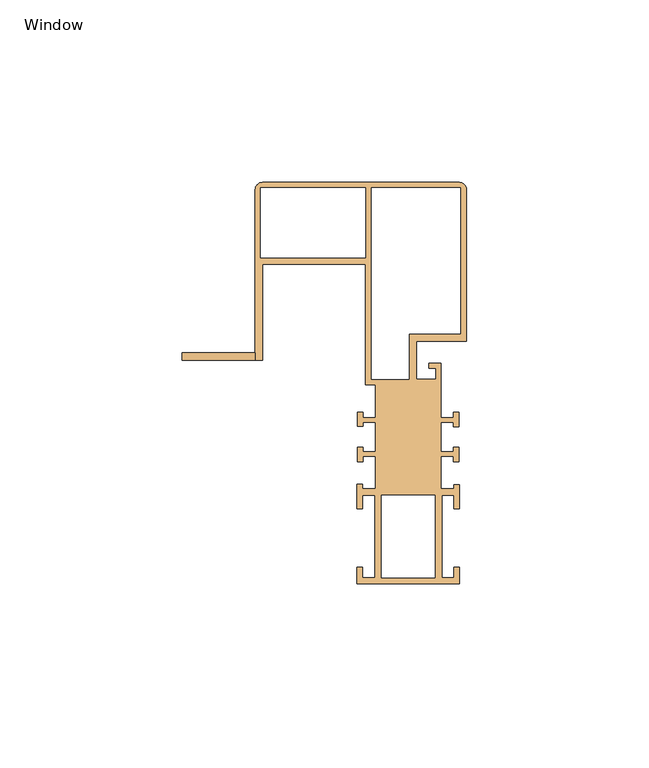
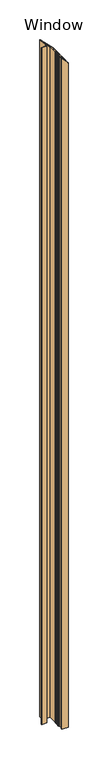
"""IFC4 building model written with IfcOpenShell, lengths in millimetres: door geometry, QO-H-QB_Door Module : Window."""

from ifc_helpers import new_model, si_unit, frame, origin, place, context, project, spatial, circle_curve, ellipse_curve, source, transform, mapped, element, save
from ifc_brep_helpers import plane_surface, cylinder_surface, advanced_brep


def window_996190e2(model_context):
    return source(origin(), model_context, "Body", "AdvancedBrep", [
        advanced_brep(
        [(-654.4523452, -75.0037405, -4.0), (-657.9523458, -75.0037405, -4.0), (-657.9523458, -76.5037405, -4.0), (-659.4523458, -76.5037405, -4.0), (-659.4523458, -72.6037405, -4.0), (-657.9523458, -72.6037405, -4.0), (-657.9523458, -73.8037405, -4.0), (-654.4523458, -73.8037405, -4.0), (-654.4523458, -65.7037405, -4.0), (-657.9523458, -65.7037405, -4.0), (-657.9523458, -66.9037405, -4.0), (-659.4523458, -66.9037405, -4.0), (-659.4523458, -63.0037405, -4.0), (-657.9523458, -63.0037405, -4.0), (-657.9523458, -64.5037405, -4.0), (-654.4523459, -64.5037405, -4.0), (-654.4523459, -55.4999986, -4.0), (-657.3, -55.4999986, -4.0), (-657.3, -22.4, -4.0), (-685.4990835, -22.4, -4.0), (-685.4990835, -48.7, -4.0), (-707.4990835, -48.7, -4.0), (-707.4990835, -46.7, -4.0), (-687.5, -46.7, -4.0), (-687.5, -2.0, -4.0), (-685.5, 0.0, -4.0), (-631.5, 0.0, -4.0), (-629.5, -2.0, -4.0), (-629.5, -43.5, -4.0), (-643.3, -43.5, -4.0), (-643.3, -54.0, -4.0), (-637.9, -54.0, -4.0), (-637.9, -51.0, -4.0), (-639.8, -51.0, -4.0), (-639.8, -49.6, -4.0), (-636.5, -49.6, -4.0), (-636.5, -64.5037405, -4.0), (-633.0513133, -64.5037405, -4.0), (-633.0513133, -63.0037405, -4.0), (-631.5513133, -63.0037405, -4.0), (-631.5513133, -66.9037405, -4.0), (-633.0513133, -66.9037405, -4.0), (-633.0513133, -65.7037405, -4.0), (-636.5513133, -65.7037405, -4.0), (-636.5513133, -73.8037405, -4.0), (-633.0513133, -73.8037405, -4.0), (-633.0513133, -72.6037405, -4.0), (-631.5513133, -72.6037405, -4.0), (-631.5513133, -76.5037405, -4.0), (-633.0513133, -76.5037405, -4.0), (-633.0513133, -75.0037405, -4.0), (-636.5513139, -75.0037405, -4.0), (-636.5513139, -84.0037561, -4.0), (-633.0018295, -84.0037561, -4.0), (-633.0018295, -82.8037561, -4.0), (-631.5018295, -82.8037561, -4.0), (-631.5018295, -89.5037561, -4.0), (-633.0018295, -89.5037561, -4.0), (-633.0018295, -85.7037561, -4.0), (-636.3018295, -85.7037561, -4.0), (-636.3018295, -108.3037561, -4.0), (-633.0018295, -108.3037561, -4.0), (-633.0018295, -105.5037561, -4.0), (-631.5018295, -105.5037561, -4.0), (-631.5018295, -110.0037561, -4.0), (-659.5018295, -110.0037561, -4.0), (-659.5018295, -105.5037561, -4.0), (-658.0018295, -105.5037561, -4.0), (-658.0018295, -108.3037561, -4.0), (-654.7018295, -108.3037561, -4.0), (-654.7018295, -85.7037561, -4.0), (-658.0018295, -85.7037561, -4.0), (-658.0018295, -89.5037561, -4.0), (-659.5018295, -89.5037561, -4.0), (-659.5018295, -82.8037561, -4.0), (-658.0018295, -82.8037561, -4.0), (-658.0018295, -84.0037561, -4.0), (-654.4523452, -84.0037561, -4.0), (-657.3, -1.5, -4.0), (-686.0, -1.5, -4.0), (-686.0, -20.7, -4.0), (-657.3, -20.7, -4.0), (-645.3, -41.5, -4.0), (-631.2, -41.5, -4.0), (-631.2, -1.5, -4.0), (-655.6, -1.5, -4.0), (-655.6, -54.0, -4.0), (-645.3, -54.0, -4.0), (-638.2018295, -108.3037561, -4.0), (-638.2018295, -85.7037561, -4.0), (-652.8018295, -85.7037561, -4.0), (-652.8018295, -108.3037561, -4.0), (-654.4523452, -75.0037405, 2939.9523452), (-657.9523458, -75.0037405, 2943.4523458), (-657.9523458, -76.5037405, 2943.4523458), (-659.4523458, -76.5037405, 2944.9523458), (-659.4523458, -72.6037405, 2944.9523458), (-657.9523458, -72.6037405, 2943.4523458), (-657.9523458, -73.8037405, 2943.4523458), (-654.4523458, -73.8037405, 2939.9523458), (-654.4523458, -65.7037405, 2939.9523458), (-657.9523458, -65.7037405, 2943.4523458), (-657.9523458, -66.9037405, 2943.4523458), (-659.4523458, -66.9037405, 2944.9523458), (-659.4523458, -63.0037405, 2944.9523458), (-657.9523458, -63.0037405, 2943.4523458), (-657.9523458, -64.5037405, 2943.4523458), (-654.4523459, -64.5037405, 2939.9523459), (-654.4523459, -55.4999986, 2939.9523459), (-657.3, -55.4999986, 2942.8), (-657.3, -22.4, 2942.8), (-685.4990835, -22.4, 2970.9990835), (-685.4990835, -48.7, 2970.9990835), (-687.5, -48.7, 2973.0), (-707.4990835, -48.7, 2973.0), (-707.4990835, -46.7, 2973.0), (-687.5, -46.7, 2973.0), (-687.5, -2.0, 2973.0), (-685.5, 0.0, 2971.0), (-631.5, 0.0, 2917.0), (-629.5, -2.0, 2915.0), (-629.5, -43.5, 2915.0), (-643.3, -43.5, 2928.8), (-643.3, -54.0, 2928.8), (-637.9, -54.0, 2923.4), (-637.9, -51.0, 2923.4), (-639.8, -51.0, 2925.3), (-639.8, -49.6, 2925.3), (-636.5, -49.6, 2922.0), (-636.5, -64.5037405, 2922.0), (-633.0513133, -64.5037405, 2918.5513133), (-633.0513133, -63.0037405, 2918.5513133), (-631.5513133, -63.0037405, 2917.0513133), (-631.5513133, -66.9037405, 2917.0513133), (-633.0513133, -66.9037405, 2918.5513133), (-633.0513133, -65.7037405, 2918.5513133), (-636.5513133, -65.7037405, 2922.0513133), (-636.5513133, -73.8037405, 2922.0513133), (-633.0513133, -73.8037405, 2918.5513133), (-633.0513133, -72.6037405, 2918.5513133), (-631.5513133, -72.6037405, 2917.0513133), (-631.5513133, -76.5037405, 2917.0513133), (-633.0513133, -76.5037405, 2918.5513133), (-633.0513133, -75.0037405, 2918.5513133), (-636.5513139, -75.0037405, 2922.0513139), (-636.5513139, -84.0037561, 2922.0513139), (-633.0018295, -84.0037561, 2918.5018295), (-633.0018295, -82.8037561, 2918.5018295), (-631.5018295, -82.8037561, 2917.0018295), (-631.5018295, -89.5037561, 2917.0018295), (-633.0018295, -89.5037561, 2918.5018295), (-633.0018295, -85.7037561, 2918.5018295), (-636.3018295, -85.7037561, 2921.8018295), (-636.3018295, -108.3037561, 2921.8018295), (-633.0018295, -108.3037561, 2918.5018295), (-633.0018295, -105.5037561, 2918.5018295), (-631.5018295, -105.5037561, 2917.0018295), (-631.5018295, -110.0037561, 2917.0018295), (-659.5018295, -110.0037561, 2945.0018295), (-659.5018295, -105.5037561, 2945.0018295), (-658.0018295, -105.5037561, 2943.5018295), (-658.0018295, -108.3037561, 2943.5018295), (-654.7018295, -108.3037561, 2940.2018295), (-654.7018295, -85.7037561, 2940.2018295), (-658.0018295, -85.7037561, 2943.5018295), (-658.0018295, -89.5037561, 2943.5018295), (-659.5018295, -89.5037561, 2945.0018295), (-659.5018295, -82.8037561, 2945.0018295), (-658.0018295, -82.8037561, 2943.5018295), (-658.0018295, -84.0037561, 2943.5018295), (-654.4523452, -84.0037561, 2939.9523452), (-657.3, -1.5, 2942.8), (-686.0, -1.5, 2971.5), (-686.0, -20.7, 2971.5), (-657.3, -20.7, 2942.8), (-645.3, -41.5, 2930.8), (-631.2, -41.5, 2916.7), (-631.2, -1.5, 2916.7), (-655.6, -1.5, 2941.1), (-655.6, -54.0, 2941.1), (-645.3, -54.0, 2930.8), (-638.2018295, -108.3037561, 2923.7018295), (-638.2018295, -85.7037561, 2923.7018295), (-652.8018295, -85.7037561, 2938.3018295), (-652.8018295, -108.3037561, 2938.3018295)],
        [
            (0, 1),
            (1, 2),
            (2, 3),
            (3, 4),
            (4, 5),
            (5, 6),
            (6, 7),
            (7, 8),
            (8, 9),
            (9, 10),
            (10, 11),
            (11, 12),
            (12, 13),
            (13, 14),
            (14, 15),
            (15, 16),
            (16, 17),
            (17, 18),
            (18, 19),
            (19, 20),
            (20, 21),
            (21, 22),
            (22, 23),
            (23, 24),
            (24, 25, circle_curve(frame((-685.5, -2.0, -4.0), z_axis=(0.0, 0.0, -1.0), x_axis=(0.0, -1.0, 0.0)), 2.0)),
            (25, 26),
            (26, 27, circle_curve(frame((-631.5, -2.0, -4.0), z_axis=(0.0, 0.0, -1.0), x_axis=(0.0, -1.0, 0.0)), 2.0)),
            (27, 28),
            (28, 29),
            (29, 30),
            (30, 31),
            (31, 32),
            (32, 33),
            (33, 34),
            (34, 35),
            (35, 36),
            (36, 37),
            (37, 38),
            (38, 39),
            (39, 40),
            (40, 41),
            (41, 42),
            (42, 43),
            (43, 44),
            (44, 45),
            (45, 46),
            (46, 47),
            (47, 48),
            (48, 49),
            (49, 50),
            (50, 51),
            (51, 52),
            (52, 53),
            (53, 54),
            (54, 55),
            (55, 56),
            (56, 57),
            (57, 58),
            (58, 59),
            (59, 60),
            (60, 61),
            (61, 62),
            (62, 63),
            (63, 64),
            (64, 65),
            (65, 66),
            (66, 67),
            (67, 68),
            (68, 69),
            (69, 70),
            (70, 71),
            (71, 72),
            (72, 73),
            (73, 74),
            (74, 75),
            (75, 76),
            (76, 77),
            (77, 0),
            (78, 79),
            (79, 80),
            (80, 81),
            (81, 78),
            (82, 83),
            (83, 84),
            (84, 85),
            (85, 86),
            (86, 87),
            (87, 82),
            (88, 89),
            (89, 90),
            (90, 91),
            (91, 88),
            (0, 92),
            (92, 93),
            (93, 1),
            (93, 94),
            (94, 2),
            (94, 95),
            (95, 3),
            (95, 96),
            (96, 4),
            (96, 97),
            (97, 5),
            (97, 98),
            (98, 6),
            (98, 99),
            (99, 7),
            (99, 100),
            (100, 8),
            (100, 101),
            (101, 9),
            (101, 102),
            (102, 10),
            (102, 103),
            (103, 11),
            (103, 104),
            (104, 12),
            (104, 105),
            (105, 13),
            (105, 106),
            (106, 14),
            (106, 107),
            (107, 15),
            (107, 108),
            (108, 16),
            (108, 109),
            (109, 17),
            (109, 110),
            (110, 18),
            (110, 111),
            (111, 19),
            (111, 112),
            (112, 20),
            (112, 113),
            (113, 114),
            (114, 21),
            (114, 115),
            (115, 22),
            (115, 116),
            (116, 23),
            (116, 117),
            (117, 24),
            (117, 118, ellipse_curve(frame((-685.5, -2.0, 2971.0), z_axis=(-0.7071067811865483, 0.0, -0.7071067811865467), x_axis=(-0.7071067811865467, 0.0, 0.7071067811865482)), 2.8284271, 2.0)),
            (118, 25),
            (118, 119),
            (119, 26),
            (119, 120, ellipse_curve(frame((-631.5, -2.0, 2917.0), z_axis=(-0.7071067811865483, 0.0, -0.7071067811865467), x_axis=(-0.7071067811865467, 0.0, 0.7071067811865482)), 2.8284271, 2.0)),
            (120, 27),
            (120, 121),
            (121, 28),
            (121, 122),
            (122, 29),
            (122, 123),
            (123, 30),
            (123, 124),
            (124, 31),
            (124, 125),
            (125, 32),
            (125, 126),
            (126, 33),
            (126, 127),
            (127, 34),
            (127, 128),
            (128, 35),
            (128, 129),
            (129, 36),
            (129, 130),
            (130, 37),
            (130, 131),
            (131, 38),
            (131, 132),
            (132, 39),
            (132, 133),
            (133, 40),
            (133, 134),
            (134, 41),
            (134, 135),
            (135, 42),
            (135, 136),
            (136, 43),
            (136, 137),
            (137, 44),
            (137, 138),
            (138, 45),
            (138, 139),
            (139, 46),
            (139, 140),
            (140, 47),
            (140, 141),
            (141, 48),
            (141, 142),
            (142, 49),
            (142, 143),
            (143, 50),
            (143, 144),
            (144, 51),
            (144, 145),
            (145, 52),
            (145, 146),
            (146, 53),
            (146, 147),
            (147, 54),
            (147, 148),
            (148, 55),
            (148, 149),
            (149, 56),
            (149, 150),
            (150, 57),
            (150, 151),
            (151, 58),
            (151, 152),
            (152, 59),
            (152, 153),
            (153, 60),
            (153, 154),
            (154, 61),
            (154, 155),
            (155, 62),
            (155, 156),
            (156, 63),
            (156, 157),
            (157, 64),
            (157, 158),
            (158, 65),
            (158, 159),
            (159, 66),
            (159, 160),
            (160, 67),
            (160, 161),
            (161, 68),
            (161, 162),
            (162, 69),
            (162, 163),
            (163, 70),
            (163, 164),
            (164, 71),
            (164, 165),
            (165, 72),
            (165, 166),
            (166, 73),
            (166, 167),
            (167, 74),
            (167, 168),
            (168, 75),
            (168, 169),
            (169, 76),
            (169, 170),
            (170, 77),
            (170, 92),
            (78, 171),
            (171, 172),
            (172, 79),
            (172, 173),
            (173, 80),
            (173, 174),
            (174, 81),
            (174, 171),
            (82, 175),
            (175, 176),
            (176, 83),
            (176, 177),
            (177, 84),
            (177, 178),
            (178, 85),
            (178, 179),
            (179, 86),
            (179, 180),
            (180, 87),
            (180, 175),
            (88, 181),
            (181, 182),
            (182, 89),
            (182, 183),
            (183, 90),
            (183, 184),
            (184, 91),
            (184, 181),
            (113, 116),
        ],
        [
            plane_surface(frame((-700.0, 0.0, -4.0), z_axis=(0.0, 0.0, -1.0), x_axis=(0.0, -1.0, 0.0))),
            plane_surface(frame((-657.9523458, -75.0037405, 2973.0), z_axis=(0.0, -1.0, 0.0), x_axis=(0.0, 0.0, -1.0))),
            plane_surface(frame((-657.9523458, -76.5037405, 2973.0), z_axis=(1.0, 0.0, 0.0), x_axis=(0.0, 0.0, -1.0))),
            plane_surface(frame((-659.4523458, -76.5037405, 2973.0), z_axis=(0.0, -1.0, 0.0), x_axis=(0.0, 0.0, -1.0))),
            plane_surface(frame((-659.4523458, -72.6037405, 2973.0), z_axis=(-1.0, 0.0, 0.0), x_axis=(0.0, 0.0, -1.0))),
            plane_surface(frame((-657.9523458, -72.6037405, 2973.0), z_axis=(0.0, 1.0, 0.0), x_axis=(0.0, 0.0, -1.0))),
            plane_surface(frame((-657.9523458, -73.8037405, 2973.0), z_axis=(1.0, 0.0, 0.0), x_axis=(0.0, 0.0, -1.0))),
            plane_surface(frame((-654.4523458, -73.8037405, 2973.0), z_axis=(0.0, 1.0, 0.0), x_axis=(0.0, 0.0, -1.0))),
            plane_surface(frame((-654.4523458, -65.7037405, 2973.0), z_axis=(-1.0, 0.0, 0.0), x_axis=(0.0, 0.0, -1.0))),
            plane_surface(frame((-657.9523458, -65.7037405, 2973.0), z_axis=(0.0, -1.0, 0.0), x_axis=(0.0, 0.0, -1.0))),
            plane_surface(frame((-657.9523458, -66.9037405, 2973.0), z_axis=(1.0, 0.0, 0.0), x_axis=(0.0, 0.0, -1.0))),
            plane_surface(frame((-659.4523458, -66.9037405, 2973.0), z_axis=(0.0, -1.0, 0.0), x_axis=(0.0, 0.0, -1.0))),
            plane_surface(frame((-659.4523458, -63.0037405, 2973.0), z_axis=(-1.0, 0.0, 0.0), x_axis=(0.0, 0.0, -1.0))),
            plane_surface(frame((-657.9523458, -63.0037405, 2973.0), z_axis=(0.0, 1.0, 0.0), x_axis=(0.0, 0.0, -1.0))),
            plane_surface(frame((-657.9523458, -64.5037405, 2973.0), z_axis=(1.0, 0.0, 0.0), x_axis=(0.0, 0.0, -1.0))),
            plane_surface(frame((-654.4523459, -64.5037405, 2973.0), z_axis=(0.0, 1.0, 0.0), x_axis=(0.0, 0.0, -1.0))),
            plane_surface(frame((-654.4523459, -55.4999986, 2973.0), z_axis=(-1.0, 0.0, 0.0), x_axis=(0.0, 0.0, -1.0))),
            plane_surface(frame((-657.3, -55.4999986, 2973.0), z_axis=(0.0, -1.0, 0.0), x_axis=(0.0, 0.0, -1.0))),
            plane_surface(frame((-657.3, -22.4, 2973.0), z_axis=(-1.0, 0.0, 0.0), x_axis=(0.0, 0.0, -1.0))),
            plane_surface(frame((-685.4990835, -22.4, 2973.0), z_axis=(0.0, -1.0, 0.0), x_axis=(0.0, 0.0, -1.0))),
            plane_surface(frame((-685.4990835, -48.7, 2973.0), z_axis=(1.0, 0.0, 0.0), x_axis=(0.0, 0.0, -1.0))),
            plane_surface(frame((-707.4990835, -48.7, 2973.0), z_axis=(0.0, -1.0, 0.0), x_axis=(0.0, 0.0, -1.0))),
            plane_surface(frame((-707.4990835, -46.7, 2973.0), z_axis=(-1.0, 0.0, 0.0), x_axis=(0.0, 0.0, -1.0))),
            plane_surface(frame((-687.5, -46.7, 2973.0), z_axis=(0.0, 1.0, 0.0), x_axis=(0.0, 0.0, -1.0))),
            plane_surface(frame((-687.5, -2.0, 2973.0), z_axis=(-1.0, 0.0, 0.0), x_axis=(0.0, 0.0, -1.0))),
            cylinder_surface(frame((-685.5, -2.0, 2973.0), z_axis=(0.0, 0.0, 1.0), x_axis=(0.0, -1.0, 0.0)), 2.0),
            plane_surface(frame((-631.5, 0.0, 2973.0), z_axis=(0.0, 1.0, 0.0), x_axis=(0.0, 0.0, -1.0))),
            cylinder_surface(frame((-631.5, -2.0, 2973.0), z_axis=(0.0, 0.0, 1.0), x_axis=(0.0, -1.0, 0.0)), 2.0),
            plane_surface(frame((-629.5, -43.5, 2973.0), z_axis=(1.0, 0.0, 0.0), x_axis=(0.0, 0.0, -1.0))),
            plane_surface(frame((-643.3, -43.5, 2973.0), z_axis=(0.0, -1.0, 0.0), x_axis=(0.0, 0.0, -1.0))),
            plane_surface(frame((-643.3, -54.0, 2973.0), z_axis=(1.0, 0.0, 0.0), x_axis=(0.0, 0.0, -1.0))),
            plane_surface(frame((-637.9, -54.0, 2973.0), z_axis=(0.0, 1.0, 0.0), x_axis=(0.0, 0.0, -1.0))),
            plane_surface(frame((-637.9, -51.0, 2973.0), z_axis=(-1.0, 0.0, 0.0), x_axis=(0.0, 0.0, -1.0))),
            plane_surface(frame((-639.8, -51.0, 2973.0), z_axis=(0.0, -1.0, 0.0), x_axis=(0.0, 0.0, -1.0))),
            plane_surface(frame((-639.8, -49.6, 2973.0), z_axis=(-1.0, 0.0, 0.0), x_axis=(0.0, 0.0, -1.0))),
            plane_surface(frame((-636.5, -49.6, 2973.0), z_axis=(0.0, 1.0, 0.0), x_axis=(0.0, 0.0, -1.0))),
            plane_surface(frame((-636.5, -64.5037405, 2973.0), z_axis=(1.0, 0.0, 0.0), x_axis=(0.0, 0.0, -1.0))),
            plane_surface(frame((-633.0513133, -64.5037405, 2973.0), z_axis=(0.0, 1.0, 0.0), x_axis=(0.0, 0.0, -1.0))),
            plane_surface(frame((-633.0513133, -63.0037405, 2973.0), z_axis=(-1.0, 0.0, 0.0), x_axis=(0.0, 0.0, -1.0))),
            plane_surface(frame((-631.5513133, -63.0037405, 2973.0), z_axis=(0.0, 1.0, 0.0), x_axis=(0.0, 0.0, -1.0))),
            plane_surface(frame((-631.5513133, -66.9037405, 2973.0), z_axis=(1.0, 0.0, 0.0), x_axis=(0.0, 0.0, -1.0))),
            plane_surface(frame((-633.0513133, -66.9037405, 2973.0), z_axis=(0.0, -1.0, 0.0), x_axis=(0.0, 0.0, -1.0))),
            plane_surface(frame((-633.0513133, -65.7037405, 2973.0), z_axis=(-1.0, 0.0, 0.0), x_axis=(0.0, 0.0, -1.0))),
            plane_surface(frame((-636.5513133, -65.7037405, 2973.0), z_axis=(0.0, -1.0, 0.0), x_axis=(0.0, 0.0, -1.0))),
            plane_surface(frame((-636.5513133, -73.8037405, 2973.0), z_axis=(1.0, 0.0, 0.0), x_axis=(0.0, 0.0, -1.0))),
            plane_surface(frame((-633.0513133, -73.8037405, 2973.0), z_axis=(0.0, 1.0, 0.0), x_axis=(0.0, 0.0, -1.0))),
            plane_surface(frame((-633.0513133, -72.6037405, 2973.0), z_axis=(-1.0, 0.0, 0.0), x_axis=(0.0, 0.0, -1.0))),
            plane_surface(frame((-631.5513133, -72.6037405, 2973.0), z_axis=(0.0, 1.0, 0.0), x_axis=(0.0, 0.0, -1.0))),
            plane_surface(frame((-631.5513133, -76.5037405, 2973.0), z_axis=(1.0, 0.0, 0.0), x_axis=(0.0, 0.0, -1.0))),
            plane_surface(frame((-633.0513133, -76.5037405, 2973.0), z_axis=(0.0, -1.0, 0.0), x_axis=(0.0, 0.0, -1.0))),
            plane_surface(frame((-633.0513133, -75.0037405, 2973.0), z_axis=(-1.0, 0.0, 0.0), x_axis=(0.0, 0.0, -1.0))),
            plane_surface(frame((-636.5513139, -75.0037405, 2973.0), z_axis=(0.0, -1.0, 0.0), x_axis=(0.0, 0.0, -1.0))),
            plane_surface(frame((-636.5513139, -84.0037561, 2973.0), z_axis=(1.0, 0.0, 0.0), x_axis=(0.0, 0.0, -1.0))),
            plane_surface(frame((-633.0018295, -84.0037561, 2973.0), z_axis=(0.0, 1.0, 0.0), x_axis=(0.0, 0.0, -1.0))),
            plane_surface(frame((-633.0018295, -82.8037561, 2973.0), z_axis=(-1.0, 0.0, 0.0), x_axis=(0.0, 0.0, -1.0))),
            plane_surface(frame((-631.5018295, -82.8037561, 2973.0), z_axis=(0.0, 1.0, 0.0), x_axis=(0.0, 0.0, -1.0))),
            plane_surface(frame((-631.5018295, -89.5037561, 2973.0), z_axis=(1.0, 0.0, 0.0), x_axis=(0.0, 0.0, -1.0))),
            plane_surface(frame((-633.0018295, -89.5037561, 2973.0), z_axis=(0.0, -1.0, 0.0), x_axis=(0.0, 0.0, -1.0))),
            plane_surface(frame((-633.0018295, -85.7037561, 2973.0), z_axis=(-1.0, 0.0, 0.0), x_axis=(0.0, 0.0, -1.0))),
            plane_surface(frame((-636.3018295, -85.7037561, 2973.0), z_axis=(0.0, -1.0, 0.0), x_axis=(0.0, 0.0, -1.0))),
            plane_surface(frame((-636.3018295, -108.3037561, 2973.0), z_axis=(1.0, 0.0, 0.0), x_axis=(0.0, 0.0, -1.0))),
            plane_surface(frame((-633.0018295, -108.3037561, 2973.0), z_axis=(0.0, 1.0, 0.0), x_axis=(0.0, 0.0, -1.0))),
            plane_surface(frame((-633.0018295, -105.5037561, 2973.0), z_axis=(-1.0, 0.0, 0.0), x_axis=(0.0, 0.0, -1.0))),
            plane_surface(frame((-631.5018295, -105.5037561, 2973.0), z_axis=(0.0, 1.0, 0.0), x_axis=(0.0, 0.0, -1.0))),
            plane_surface(frame((-631.5018295, -110.0037561, 2973.0), z_axis=(1.0, 0.0, 0.0), x_axis=(0.0, 0.0, -1.0))),
            plane_surface(frame((-659.5018295, -110.0037561, 2973.0), z_axis=(0.0, -1.0, 0.0), x_axis=(0.0, 0.0, -1.0))),
            plane_surface(frame((-659.5018295, -105.5037561, 2973.0), z_axis=(-1.0, 0.0, 0.0), x_axis=(0.0, 0.0, -1.0))),
            plane_surface(frame((-658.0018295, -105.5037561, 2973.0), z_axis=(0.0, 1.0, 0.0), x_axis=(0.0, 0.0, -1.0))),
            plane_surface(frame((-658.0018295, -108.3037561, 2973.0), z_axis=(1.0, 0.0, 0.0), x_axis=(0.0, 0.0, -1.0))),
            plane_surface(frame((-654.7018295, -108.3037561, 2973.0), z_axis=(0.0, 1.0, 0.0), x_axis=(0.0, 0.0, -1.0))),
            plane_surface(frame((-654.7018295, -85.7037561, 2973.0), z_axis=(-1.0, 0.0, 0.0), x_axis=(0.0, 0.0, -1.0))),
            plane_surface(frame((-658.0018295, -85.7037561, 2973.0), z_axis=(0.0, -1.0, 0.0), x_axis=(0.0, 0.0, -1.0))),
            plane_surface(frame((-658.0018295, -89.5037561, 2973.0), z_axis=(1.0, 0.0, 0.0), x_axis=(0.0, 0.0, -1.0))),
            plane_surface(frame((-659.5018295, -89.5037561, 2973.0), z_axis=(0.0, -1.0, 0.0), x_axis=(0.0, 0.0, -1.0))),
            plane_surface(frame((-659.5018295, -82.8037561, 2973.0), z_axis=(-1.0, 0.0, 0.0), x_axis=(0.0, 0.0, -1.0))),
            plane_surface(frame((-658.0018295, -82.8037561, 2973.0), z_axis=(0.0, 1.0, 0.0), x_axis=(0.0, 0.0, -1.0))),
            plane_surface(frame((-658.0018295, -84.0037561, 2973.0), z_axis=(1.0, 0.0, 0.0), x_axis=(0.0, 0.0, -1.0))),
            plane_surface(frame((-654.4523452, -84.0037561, 2973.0), z_axis=(0.0, 1.0, 0.0), x_axis=(0.0, 0.0, -1.0))),
            plane_surface(frame((-654.4523452, -75.0037405, 2973.0), z_axis=(-1.0, 0.0, 0.0), x_axis=(0.0, 0.0, -1.0))),
            plane_surface(frame((-686.0, -1.5, 2973.0), z_axis=(0.0, -1.0, 0.0), x_axis=(0.0, 0.0, -1.0))),
            plane_surface(frame((-686.0, -20.7, 2973.0), z_axis=(1.0, 0.0, 0.0), x_axis=(0.0, 0.0, -1.0))),
            plane_surface(frame((-657.3, -20.7, 2973.0), z_axis=(0.0, 1.0, 0.0), x_axis=(0.0, 0.0, -1.0))),
            plane_surface(frame((-657.3, -1.5, 2973.0), z_axis=(-1.0, 0.0, 0.0), x_axis=(0.0, 0.0, -1.0))),
            plane_surface(frame((-631.2, -41.5, 2973.0), z_axis=(0.0, 1.0, 0.0), x_axis=(0.0, 0.0, -1.0))),
            plane_surface(frame((-631.2, -1.5, 2973.0), z_axis=(-1.0, 0.0, 0.0), x_axis=(0.0, 0.0, -1.0))),
            plane_surface(frame((-655.6, -1.5, 2973.0), z_axis=(0.0, -1.0, 0.0), x_axis=(0.0, 0.0, -1.0))),
            plane_surface(frame((-655.6, -54.0, 2973.0), z_axis=(1.0, 0.0, 0.0), x_axis=(0.0, 0.0, -1.0))),
            plane_surface(frame((-645.3, -54.0, 2973.0), z_axis=(0.0, 1.0, 0.0), x_axis=(0.0, 0.0, -1.0))),
            plane_surface(frame((-645.3, -41.5, 2973.0), z_axis=(-1.0, 0.0, 0.0), x_axis=(0.0, 0.0, -1.0))),
            plane_surface(frame((-638.2018295, -85.7037561, 2973.0), z_axis=(-1.0, 0.0, 0.0), x_axis=(0.0, 0.0, -1.0))),
            plane_surface(frame((-652.8018295, -85.7037561, 2973.0), z_axis=(0.0, -1.0, 0.0), x_axis=(0.0, 0.0, -1.0))),
            plane_surface(frame((-652.8018295, -108.3037561, 2973.0), z_axis=(1.0, 0.0, 0.0), x_axis=(0.0, 0.0, -1.0))),
            plane_surface(frame((-638.2018295, -108.3037561, 2973.0), z_axis=(0.0, 1.0, 0.0), x_axis=(0.0, 0.0, -1.0))),
            plane_surface(frame((-700.0, 0.0, 2973.0), z_axis=(0.0, 0.0, 1.0), x_axis=(0.0, -1.0, 0.0))),
            plane_surface(frame((-687.5, -120.0, 2973.0), z_axis=(0.7071067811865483, 0.0, 0.7071067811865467), x_axis=(0.0, 1.0, 0.0))),
        ],
        [
            (0, [[1, 2, 3, 4, 5, 6, 7, 8, 9, 10, 11, 12, 13, 14, 15, 16, 17, 18, 19, 20, 21, 22, 23, 24, 25, 26, 27, 28, 29, 30, 31, 32, 33, 34, 35, 36, 37, 38, 39, 40, 41, 42, 43, 44, 45, 46, 47, 48, 49, 50, 51, 52, 53, 54, 55, 56, 57, 58, 59, 60, 61, 62, 63, 64, 65, 66, 67, 68, 69, 70, 71, 72, 73, 74, 75, 76, 77, 78], [79, 80, 81, 82], [83, 84, 85, 86, 87, 88], [89, 90, 91, 92]]),
            (1, [[-1, 93, 94, 95]]),
            (2, [[-2, -95, 96, 97]]),
            (3, [[-3, -97, 98, 99]]),
            (4, [[-4, -99, 100, 101]]),
            (5, [[-5, -101, 102, 103]]),
            (6, [[-6, -103, 104, 105]]),
            (7, [[-7, -105, 106, 107]]),
            (8, [[-8, -107, 108, 109]]),
            (9, [[-9, -109, 110, 111]]),
            (10, [[-10, -111, 112, 113]]),
            (11, [[-11, -113, 114, 115]]),
            (12, [[-12, -115, 116, 117]]),
            (13, [[-13, -117, 118, 119]]),
            (14, [[-14, -119, 120, 121]]),
            (15, [[-15, -121, 122, 123]]),
            (16, [[-16, -123, 124, 125]]),
            (17, [[-17, -125, 126, 127]]),
            (18, [[-18, -127, 128, 129]]),
            (19, [[-19, -129, 130, 131]]),
            (20, [[-20, -131, 132, 133]]),
            (21, [[-21, -133, 134, 135, 136]]),
            (22, [[137, 138, -22, -136]]),
            (23, [[139, 140, -23, -138]]),
            (24, [[-24, -140, 141, 142]]),
            (25, [[-25, -142, 143, 144]]),
            (26, [[-26, -144, 145, 146]]),
            (27, [[-27, -146, 147, 148]]),
            (28, [[-28, -148, 149, 150]]),
            (29, [[-29, -150, 151, 152]]),
            (30, [[-30, -152, 153, 154]]),
            (31, [[-31, -154, 155, 156]]),
            (32, [[-32, -156, 157, 158]]),
            (33, [[-33, -158, 159, 160]]),
            (34, [[-34, -160, 161, 162]]),
            (35, [[-35, -162, 163, 164]]),
            (36, [[-36, -164, 165, 166]]),
            (37, [[-37, -166, 167, 168]]),
            (38, [[-38, -168, 169, 170]]),
            (39, [[-39, -170, 171, 172]]),
            (40, [[-40, -172, 173, 174]]),
            (41, [[-41, -174, 175, 176]]),
            (42, [[-42, -176, 177, 178]]),
            (43, [[-43, -178, 179, 180]]),
            (44, [[-44, -180, 181, 182]]),
            (45, [[-45, -182, 183, 184]]),
            (46, [[-46, -184, 185, 186]]),
            (47, [[-47, -186, 187, 188]]),
            (48, [[-48, -188, 189, 190]]),
            (49, [[-49, -190, 191, 192]]),
            (50, [[-50, -192, 193, 194]]),
            (51, [[-51, -194, 195, 196]]),
            (52, [[-52, -196, 197, 198]]),
            (53, [[-53, -198, 199, 200]]),
            (54, [[-54, -200, 201, 202]]),
            (55, [[-55, -202, 203, 204]]),
            (56, [[-56, -204, 205, 206]]),
            (57, [[-57, -206, 207, 208]]),
            (58, [[-58, -208, 209, 210]]),
            (59, [[-59, -210, 211, 212]]),
            (60, [[-60, -212, 213, 214]]),
            (61, [[-61, -214, 215, 216]]),
            (62, [[-62, -216, 217, 218]]),
            (63, [[-63, -218, 219, 220]]),
            (64, [[-64, -220, 221, 222]]),
            (65, [[-65, -222, 223, 224]]),
            (66, [[-66, -224, 225, 226]]),
            (67, [[-67, -226, 227, 228]]),
            (68, [[-68, -228, 229, 230]]),
            (69, [[-69, -230, 231, 232]]),
            (70, [[-70, -232, 233, 234]]),
            (71, [[-71, -234, 235, 236]]),
            (72, [[-72, -236, 237, 238]]),
            (73, [[-73, -238, 239, 240]]),
            (74, [[-74, -240, 241, 242]]),
            (75, [[-75, -242, 243, 244]]),
            (76, [[-76, -244, 245, 246]]),
            (77, [[-77, -246, 247, 248]]),
            (78, [[-78, -248, 249, -93]]),
            (79, [[-79, 250, 251, 252]]),
            (80, [[-80, -252, 253, 254]]),
            (81, [[-81, -254, 255, 256]]),
            (82, [[-82, -256, 257, -250]]),
            (83, [[-83, 258, 259, 260]]),
            (84, [[-84, -260, 261, 262]]),
            (85, [[-85, -262, 263, 264]]),
            (86, [[-86, -264, 265, 266]]),
            (87, [[-87, -266, 267, 268]]),
            (88, [[-88, -268, 269, -258]]),
            (89, [[-89, 270, 271, 272]]),
            (90, [[-90, -272, 273, 274]]),
            (91, [[-91, -274, 275, 276]]),
            (92, [[-92, -276, 277, -270]]),
            (93, [[-139, -137, -135, 278]]),
            (94, [[-278, -134, -132, -130, -128, -126, -124, -122, -120, -118, -116, -114, -112, -110, -108, -106, -104, -102, -100, -98, -96, -94, -249, -247, -245, -243, -241, -239, -237, -235, -233, -231, -229, -227, -225, -223, -221, -219, -217, -215, -213, -211, -209, -207, -205, -203, -201, -199, -197, -195, -193, -191, -189, -187, -185, -183, -181, -179, -177, -175, -173, -171, -169, -167, -165, -163, -161, -159, -157, -155, -153, -151, -149, -147, -145, -143, -141], [-257, -255, -253, -251], [-269, -267, -265, -263, -261, -259], [-277, -275, -273, -271]]),
        ],
    ),
    ])


if __name__ == "__main__":
    model = new_model("IFC4")
    model_context = context("Model", 3, world=origin())
    ifc_project = project(units=[si_unit("LENGTHUNIT", "METRE", prefix="MILLI")], contexts=[model_context])
    site = spatial("IfcSite", under=ifc_project)
    building = spatial("IfcBuilding", under=site)
    placement = place(None, origin())
    window_shape = window_996190e2(model_context)
    element("IfcDoor", 1, ObjectType="QO-H-QB_Door Module : Window", at=placement, inside=building, context=model_context, shape_type="MappedRepresentation", body=[
        mapped(window_shape, transform((0.0, 0.0, 0.0), x_axis=(1.0, 0.0, 0.0), y_axis=(0.0, 1.0, 0.0), z_axis=(0.0, 0.0, 1.0))),
    ])
    save(model, "model.ifc")
